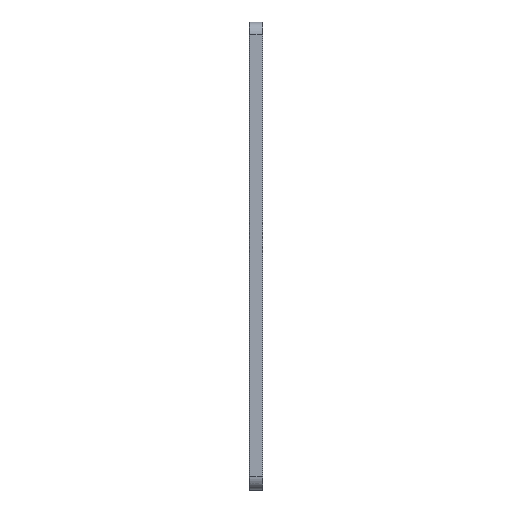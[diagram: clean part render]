
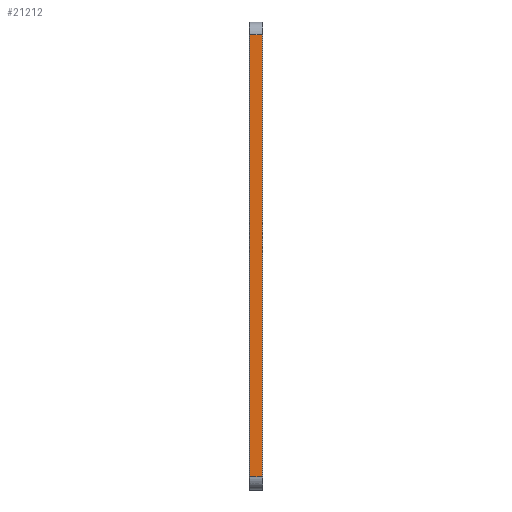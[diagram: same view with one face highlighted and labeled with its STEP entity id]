
A CAD part, left-side view. The second image highlights one B-rep face of the part: STEP entity #21212.
In plain terms, the highlighted planar face has unit normal (-1, 0, 0).
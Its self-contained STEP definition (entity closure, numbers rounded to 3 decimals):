
#297 = VERTEX_POINT ( 'NONE', #17347 ) ;
#1025 = ORIENTED_EDGE ( 'NONE', *, *, #7915, .T. ) ;
#1187 = CARTESIAN_POINT ( 'NONE',  ( -225., 13., 225. ) ) ;
#1349 = VERTEX_POINT ( 'NONE', #16659 ) ;
#1640 = VECTOR ( 'NONE', #4176, 1000. ) ;
#2236 = LINE ( 'NONE', #5939, #21925 ) ;
#2919 = PLANE ( 'NONE',  #14288 ) ;
#3347 = EDGE_CURVE ( 'NONE', #297, #1349, #24709, .T. ) ;
#3648 = DIRECTION ( 'NONE',  ( 0., -1., 0. ) ) ;
#3715 = CARTESIAN_POINT ( 'NONE',  ( -225., 0.5, 212.5 ) ) ;
#3979 = VECTOR ( 'NONE', #3648, 1000. ) ;
#4176 = DIRECTION ( 'NONE',  ( 0., 1., 0. ) ) ;
#4855 = VERTEX_POINT ( 'NONE', #17455 ) ;
#5939 = CARTESIAN_POINT ( 'NONE',  ( -225., 12.5, 225. ) ) ;
#6520 = VECTOR ( 'NONE', #20962, 1000. ) ;
#6568 = EDGE_LOOP ( 'NONE', ( #12649, #9859, #1025, #6883 ) ) ;
#6826 = DIRECTION ( 'NONE',  ( 1., 0., 0. ) ) ;
#6883 = ORIENTED_EDGE ( 'NONE', *, *, #21873, .T. ) ;
#7915 = EDGE_CURVE ( 'NONE', #1349, #11768, #22806, .T. ) ;
#8563 = CARTESIAN_POINT ( 'NONE',  ( -225., 12.5, 212.5 ) ) ;
#9859 = ORIENTED_EDGE ( 'NONE', *, *, #3347, .T. ) ;
#11453 = LINE ( 'NONE', #15091, #3979 ) ;
#11768 = VERTEX_POINT ( 'NONE', #8563 ) ;
#12055 = EDGE_CURVE ( 'NONE', #4855, #297, #11453, .T. ) ;
#12649 = ORIENTED_EDGE ( 'NONE', *, *, #12055, .T. ) ;
#14288 = AXIS2_PLACEMENT_3D ( 'NONE', #1187, #6826, #20099 ) ;
#15091 = CARTESIAN_POINT ( 'NONE',  ( -225., 13., -212.5 ) ) ;
#16659 = CARTESIAN_POINT ( 'NONE',  ( -225., 0.5, 212.5 ) ) ;
#17347 = CARTESIAN_POINT ( 'NONE',  ( -225., 0.5, -212.5 ) ) ;
#17455 = CARTESIAN_POINT ( 'NONE',  ( -225., 12.5, -212.5 ) ) ;
#19189 = CARTESIAN_POINT ( 'NONE',  ( -225., 13., 212.5 ) ) ;
#19200 = DIRECTION ( 'NONE',  ( 0., 0., -1. ) ) ;
#20099 = DIRECTION ( 'NONE',  ( 0., 0., -1. ) ) ;
#20962 = DIRECTION ( 'NONE',  ( 0., 0., 1. ) ) ;
#21212 = ADVANCED_FACE ( 'NONE', ( #21655 ), #2919, .F. ) ;
#21655 = FACE_OUTER_BOUND ( 'NONE', #6568, .T. ) ;
#21873 = EDGE_CURVE ( 'NONE', #11768, #4855, #2236, .T. ) ;
#21925 = VECTOR ( 'NONE', #19200, 1000. ) ;
#22806 = LINE ( 'NONE', #19189, #1640 ) ;
#24709 = LINE ( 'NONE', #3715, #6520 ) ;
